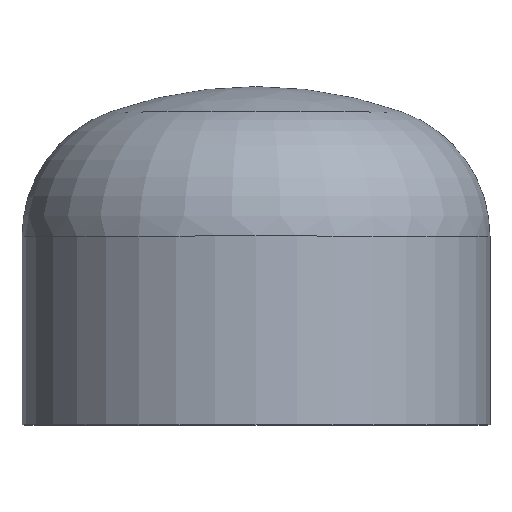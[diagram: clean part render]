
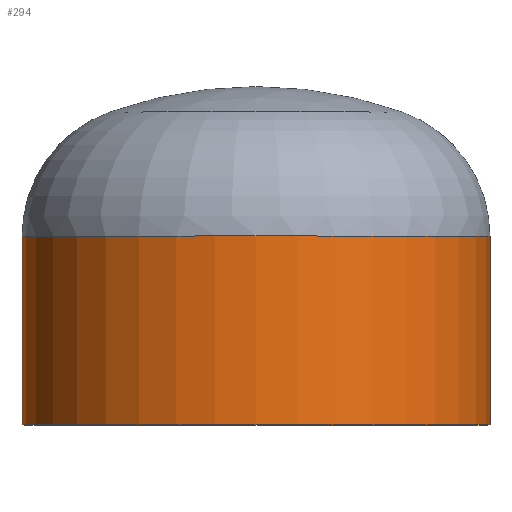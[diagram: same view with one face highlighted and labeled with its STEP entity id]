
A CAD part, top view. The second image highlights one B-rep face of the part: STEP entity #294.
In plain terms, the highlighted cylindrical face has radius 136.5 mm (diameter 273 mm), a partial arc.
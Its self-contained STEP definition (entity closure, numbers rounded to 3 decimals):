
#4 = AXIS2_PLACEMENT_3D ( 'NONE', #399, #132, #118 ) ;
#15 = ORIENTED_EDGE ( 'NONE', *, *, #377, .F. ) ;
#38 = EDGE_LOOP ( 'NONE', ( #143, #144, #43, #15 ) ) ;
#43 = ORIENTED_EDGE ( 'NONE', *, *, #354, .F. ) ;
#53 = AXIS2_PLACEMENT_3D ( 'NONE', #239, #238, #237 ) ;
#54 = VERTEX_POINT ( 'NONE', #298 ) ;
#59 = EDGE_CURVE ( 'NONE', #70, #147, #125, .T. ) ;
#70 = VERTEX_POINT ( 'NONE', #327 ) ;
#91 = VERTEX_POINT ( 'NONE', #379 ) ;
#102 = VECTOR ( 'NONE', #366, 1000. ) ;
#118 = DIRECTION ( 'NONE',  ( 1., 0., 0. ) ) ;
#125 = CIRCLE ( 'NONE', #53, 136.5 ) ;
#132 = DIRECTION ( 'NONE',  ( 0., -1., 0. ) ) ;
#143 = ORIENTED_EDGE ( 'NONE', *, *, #59, .T. ) ;
#144 = ORIENTED_EDGE ( 'NONE', *, *, #359, .T. ) ;
#147 = VERTEX_POINT ( 'NONE', #262 ) ;
#153 = CARTESIAN_POINT ( 'NONE',  ( -136.5, 0., 0. ) ) ;
#195 = CARTESIAN_POINT ( 'NONE',  ( 136.5, 0., 0. ) ) ;
#202 = LINE ( 'NONE', #195, #102 ) ;
#209 = CIRCLE ( 'NONE', #388, 136.5 ) ;
#237 = DIRECTION ( 'NONE',  ( 1., 0., 0. ) ) ;
#238 = DIRECTION ( 'NONE',  ( 0., -1., 0. ) ) ;
#239 = CARTESIAN_POINT ( 'NONE',  ( 0., 110., 0. ) ) ;
#247 = DIRECTION ( 'NONE',  ( 0., -1., 0. ) ) ;
#262 = CARTESIAN_POINT ( 'NONE',  ( -136.5, 110., 0. ) ) ;
#264 = DIRECTION ( 'NONE',  ( 0., -1., 0. ) ) ;
#284 = CYLINDRICAL_SURFACE ( 'NONE', #4, 136.5 ) ;
#294 = ADVANCED_FACE ( 'NONE', ( #297 ), #284, .T. ) ;
#297 = FACE_OUTER_BOUND ( 'NONE', #38, .T. ) ;
#298 = CARTESIAN_POINT ( 'NONE',  ( -136.5, 0., 0. ) ) ;
#327 = CARTESIAN_POINT ( 'NONE',  ( 136.5, 110., 0. ) ) ;
#342 = LINE ( 'NONE', #153, #393 ) ;
#354 = EDGE_CURVE ( 'NONE', #91, #54, #209, .T. ) ;
#359 = EDGE_CURVE ( 'NONE', #147, #54, #342, .T. ) ;
#366 = DIRECTION ( 'NONE',  ( 0., -1., 0. ) ) ;
#377 = EDGE_CURVE ( 'NONE', #70, #91, #202, .T. ) ;
#379 = CARTESIAN_POINT ( 'NONE',  ( 136.5, 0., 0. ) ) ;
#386 = CARTESIAN_POINT ( 'NONE',  ( 0., 0., 0. ) ) ;
#388 = AXIS2_PLACEMENT_3D ( 'NONE', #386, #247, #406 ) ;
#393 = VECTOR ( 'NONE', #264, 1000. ) ;
#399 = CARTESIAN_POINT ( 'NONE',  ( 0., 0., 0. ) ) ;
#406 = DIRECTION ( 'NONE',  ( 1., 0., 0. ) ) ;
